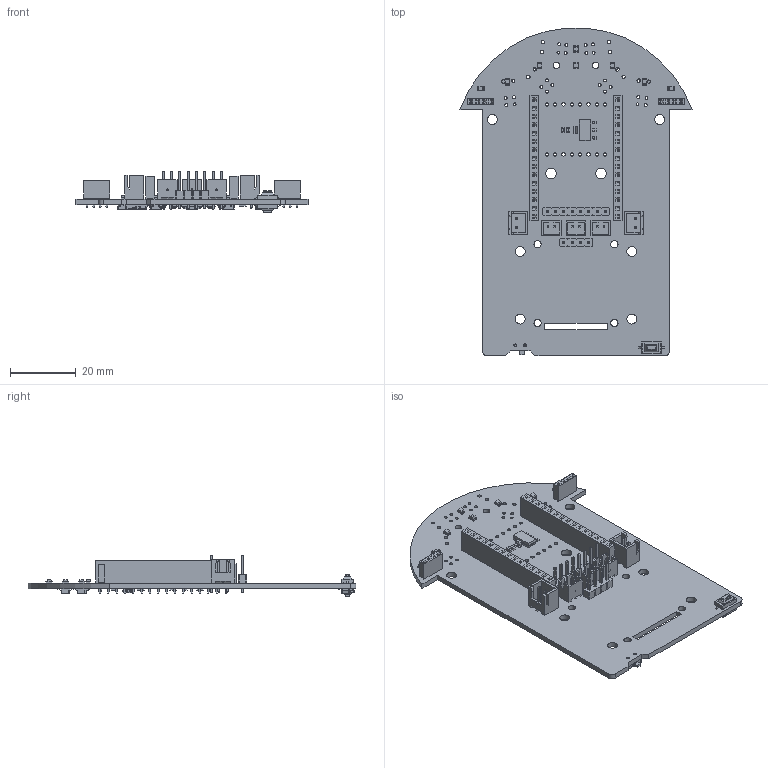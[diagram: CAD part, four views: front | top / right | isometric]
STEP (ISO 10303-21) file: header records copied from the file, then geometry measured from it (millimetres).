
FILE_DESCRIPTION(('KiCad electronic assembly'),'2;1');
FILE_NAME('Micromouse_V01.step','2022-06-13T14:26:19',('An Author'),( 'A Company'),'Open CASCADE STEP processor 6.8', 'KiCad to STEP converter','Unknown');
FILE_SCHEMA(('AUTOMOTIVE_DESIGN_CC2 { 1 2 10303 214 -1 1 5 4 }'));
Length unit declared in the file: millimetre
Products named in the file (30): Open CASCADE STEP translator 6.8 1; PinSocket_1x15_P2.54mm_Vertical; SOLID; PinHeader_1x08_P2.54mm_Vertical; PinHeader_1x04_P2.54mm_Vertical; PinSocket_1x04_P2.00mm_Vertical; C_0603_1608Metric; SOT-223; SW_SPDT_PCM12; JST_-_XH_-_Thru_(V)_-_2Pin_-_2.54mm; OnSemi_CASE100CY; LED_0805_2012Metric; JST_-_PH_-_Thru_(V)_-_2Pin_-_2.00mm; SOT-23; R_0805_2012Metric; SW_SPST_CK_RS282G05A3; COMPOUND
Assembly tree (76 placements, depth 3):
  Open CASCADE STEP translator 6.8 1
    PinSocket_1x15_P2.54mm_Vertical  x2
      SOLID
    PinHeader_1x08_P2.54mm_Vertical
      SOLID
    PinHeader_1x04_P2.54mm_Vertical
      SOLID
    PinSocket_1x04_P2.00mm_Vertical  x2
      SOLID
    C_0603_1608Metric  x2
      SOLID
    SOT-223
      SOLID
    SW_SPDT_PCM12
      SOLID
    JST_-_XH_-_Thru_(V)_-_2Pin_-_2.54mm  x2
      SOLID
    OnSemi_CASE100CY  x5
      SOLID
    LED_0805_2012Metric  x8
      SOLID
    JST_-_PH_-_Thru_(V)_-_2Pin_-_2.00mm  x3
      SOLID
    SOT-23  x6
      SOLID
    R_0805_2012Metric  x25
      SOLID
    SW_SPST_CK_RS282G05A3  x2
      SOLID
    COMPOUND
Bounding box: 70.71 x 99.87 x 12.74 mm (x, y, z)
Volume: 10972.8 mm3; surface area: 17861.9 mm2
Topology: 62 solids, 162 shells, 5222 faces, 13138 edges, 8443 vertices
Faces by surface type: plane 4313, cylinder 534, bspline 373, cone 2
Full cylindrical faces by diameter (mm): 0.8 x16, 0.9 x26, 1 x68, 1.1 x6, 2 x2, 2.2 x4, 3 x6, 3.2 x2
Entity records: 167649 total; most frequent: CARTESIAN_POINT 47630, DIRECTION 18287, LINE 12999, VECTOR 12999, ORIENTED_EDGE 10674, PCURVE 10674, DEFINITIONAL_REPRESENTATION 10674, EDGE_CURVE 5337
